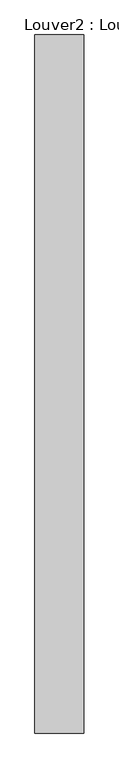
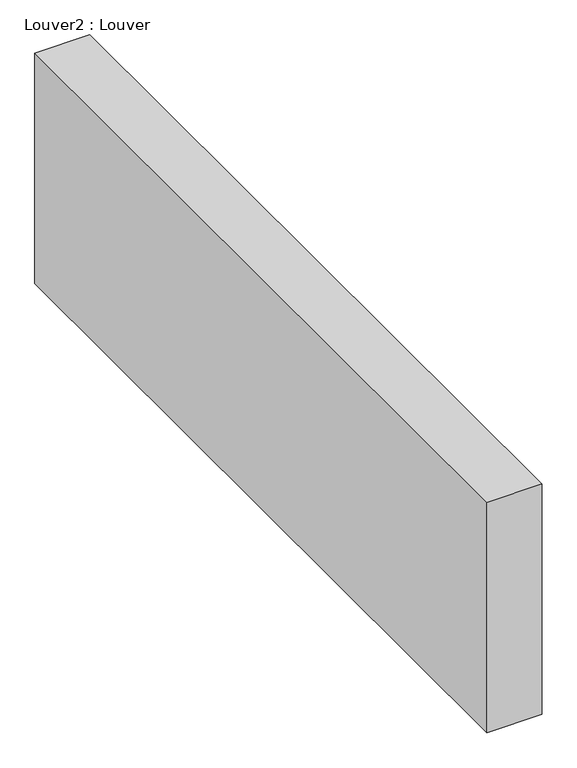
"""IFC4 building model written with IfcOpenShell, lengths in millimetres: air terminal geometry, Louver2 : Louver."""

from ifc_helpers import new_model, si_unit, frame, origin, place, context, project, spatial, polyline, outline, extrude, source, transform, mapped, element, save


def louver2_louver_de2036d3(model_context):
    return source(origin(), model_context, "Body", "SweptSolid", [
        extrude(outline(polyline([(-2623.5493706, 17373.2727817), (-2509.2493706, 17373.2727817), (-2509.2493706, 15735.9981947), (-2623.5493706, 15735.9981947), (-2623.5493706, 17373.2727817)])), frame((0.0, 0.0, 3877.2785273), z_axis=(0.0, 0.0, 1.0), x_axis=(1.0, 0.0, 0.0)), (0.0, 0.0, 1.0), 509.0422388),
    ])


if __name__ == "__main__":
    model = new_model("IFC4")
    model_context = context("Model", 3, world=origin())
    ifc_project = project(units=[si_unit("LENGTHUNIT", "METRE", prefix="MILLI")], contexts=[model_context])
    site = spatial("IfcSite", under=ifc_project)
    building = spatial("IfcBuilding", under=site)
    placement = place(None, origin())
    louver2_louver_shape = louver2_louver_de2036d3(model_context)
    element("IfcAirTerminal", 1, ObjectType="Louver2 : Louver", at=placement, inside=building, context=model_context, shape_type="MappedRepresentation", body=[
        mapped(louver2_louver_shape, transform((0.0, 0.0, 0.0), x_axis=(1.0, 0.0, 0.0), y_axis=(0.0, 1.0, 0.0), z_axis=(0.0, 0.0, 1.0))),
    ])
    save(model, "model.ifc")
